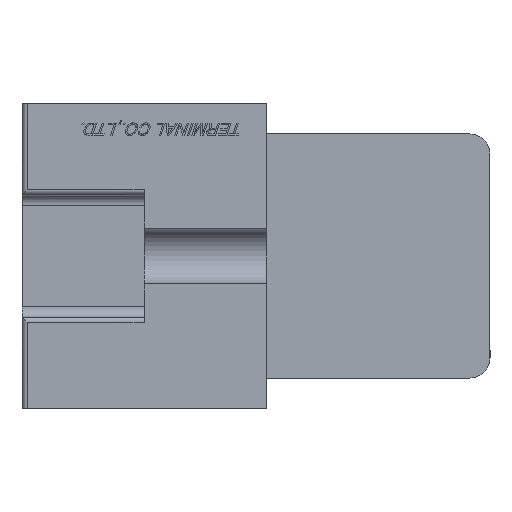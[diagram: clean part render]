
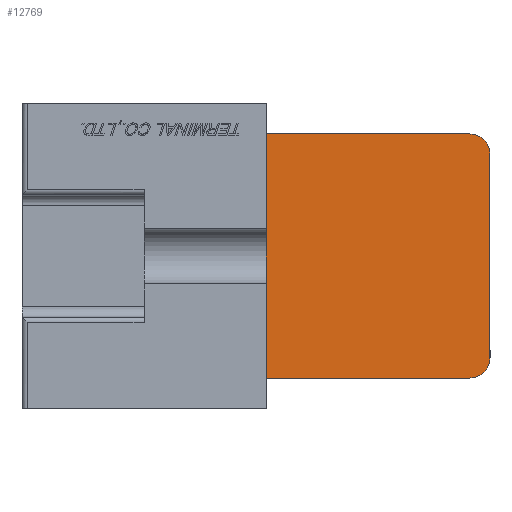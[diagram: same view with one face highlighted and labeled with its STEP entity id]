
A CAD part, left-side view. The second image highlights one B-rep face of the part: STEP entity #12769.
In plain terms, the highlighted planar face has unit normal (-1, 0, 0).
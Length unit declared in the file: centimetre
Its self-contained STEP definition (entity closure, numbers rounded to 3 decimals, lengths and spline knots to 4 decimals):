
#864=PLANE('',#22854);
#1304=CIRCLE('',#22799,0.2);
#1306=CIRCLE('',#22803,0.2);
#2122=VERTEX_POINT('',#19277);
#2123=VERTEX_POINT('',#19279);
#2145=VERTEX_POINT('',#19426);
#2153=VERTEX_POINT('',#19445);
#2608=VERTEX_POINT('',#21427);
#2616=VERTEX_POINT('',#21513);
#3164=VECTOR('',#14701,1.);
#3189=VECTOR('',#14779,1.);
#3198=VECTOR('',#14791,1.);
#3682=VECTOR('',#15654,1.);
#4183=LINE('',#19278,#3164);
#4208=LINE('',#19427,#3189);
#4217=LINE('',#19446,#3198);
#4701=LINE('',#21512,#3682);
#5706=EDGE_CURVE('',#2122,#2123,#4183,.T.);
#5751=EDGE_CURVE('',#2145,#2122,#4208,.T.);
#5762=EDGE_CURVE('',#2145,#2153,#4217,.T.);
#6436=EDGE_CURVE('',#2123,#2608,#1304,.T.);
#6447=EDGE_CURVE('',#2616,#2608,#4701,.T.);
#6449=EDGE_CURVE('',#2616,#2153,#1306,.T.);
#10082=ORIENTED_EDGE('',*,*,#6436,.F.);
#10083=ORIENTED_EDGE('',*,*,#5706,.F.);
#10084=ORIENTED_EDGE('',*,*,#5751,.F.);
#10085=ORIENTED_EDGE('',*,*,#5762,.T.);
#10086=ORIENTED_EDGE('',*,*,#6449,.F.);
#10087=ORIENTED_EDGE('',*,*,#6447,.T.);
#11026=EDGE_LOOP('',(#10082,#10083,#10084,#10085,#10086,#10087));
#11965=FACE_BOUND('',#11026,.T.);
#12769=ADVANCED_FACE('',(#11965),#864,.T.);
#14701=DIRECTION('',(0.,-1.,0.));
#14779=DIRECTION('',(0.,0.,1.));
#14791=DIRECTION('',(0.,-1.,0.));
#15643=DIRECTION('',(1.,0.,0.));
#15644=DIRECTION('',(0.,-0.141,0.141));
#15654=DIRECTION('',(0.,0.,1.));
#15658=DIRECTION('',(1.,0.,0.));
#15659=DIRECTION('',(0.,-0.141,-0.141));
#15766=DIRECTION('',(-1.,0.,0.));
#19277=CARTESIAN_POINT('',(-4.15,1.1,1.2));
#19278=CARTESIAN_POINT('',(-4.15,1.1,1.2));
#19279=CARTESIAN_POINT('',(-4.15,-0.9,1.2));
#19426=CARTESIAN_POINT('',(-4.15,1.1,-1.2));
#19427=CARTESIAN_POINT('',(-4.15,1.1,0.));
#19445=CARTESIAN_POINT('',(-4.15,-0.9,-1.2));
#19446=CARTESIAN_POINT('',(-4.15,1.1,-1.2));
#21426=CARTESIAN_POINT('',(-4.15,-0.9,1.));
#21427=CARTESIAN_POINT('',(-4.15,-1.1,1.));
#21512=CARTESIAN_POINT('',(-4.15,-1.1,-1.2));
#21513=CARTESIAN_POINT('',(-4.15,-1.1,-1.));
#21516=CARTESIAN_POINT('',(-4.15,-0.9,-1.));
#21609=CARTESIAN_POINT('',(-4.15,1.1,0.));
#22799=AXIS2_PLACEMENT_3D('',#21426,#15643,#15644);
#22803=AXIS2_PLACEMENT_3D('',#21516,#15658,#15659);
#22854=AXIS2_PLACEMENT_3D('',#21609,#15766,$);
